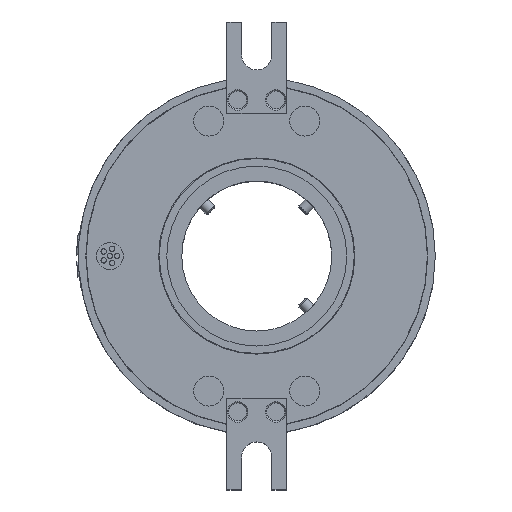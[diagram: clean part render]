
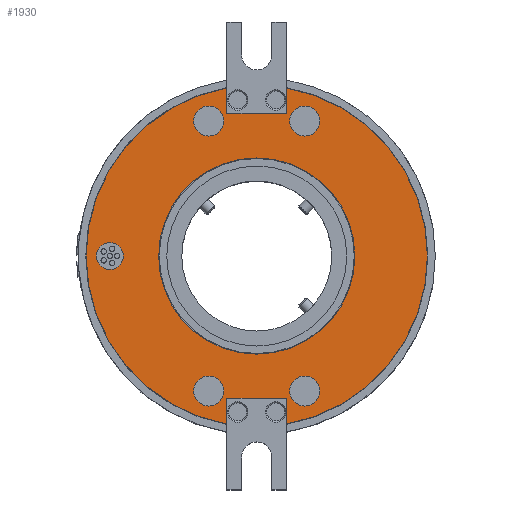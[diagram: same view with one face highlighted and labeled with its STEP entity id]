
A CAD part, top view. The second image highlights one B-rep face of the part: STEP entity #1930.
In plain terms, the highlighted planar face has unit normal (0, 0, 1).
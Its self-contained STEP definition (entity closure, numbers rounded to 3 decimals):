
#222=FACE_BOUND('',#4862,.T.);
#223=FACE_BOUND('',#4863,.T.);
#224=FACE_BOUND('',#4864,.T.);
#225=FACE_BOUND('',#4865,.T.);
#226=FACE_BOUND('',#4866,.T.);
#227=FACE_BOUND('',#4867,.T.);
#228=FACE_BOUND('',#4868,.T.);
#536=CIRCLE('',#16483,56.9);
#537=CIRCLE('',#16484,56.9);
#538=CIRCLE('',#16485,32.7);
#539=CIRCLE('',#16486,5.);
#540=CIRCLE('',#16487,5.);
#541=CIRCLE('',#16488,4.5);
#542=CIRCLE('',#16489,5.);
#543=CIRCLE('',#16490,5.);
#971=PLANE('',#16491);
#1223=LINE('',#31086,#3209);
#1224=LINE('',#31089,#3210);
#1225=LINE('',#31091,#3211);
#1226=LINE('',#31095,#3212);
#1227=LINE('',#31097,#3213);
#1228=LINE('',#31099,#3214);
#1930=ADVANCED_FACE('',(#222,#223,#224,#225,#226,#227,#228),#971,.T.);
#3209=VECTOR('',#18066,1.);
#3210=VECTOR('',#18067,1.);
#3211=VECTOR('',#18068,1.);
#3212=VECTOR('',#18071,1.);
#3213=VECTOR('',#18072,1.);
#3214=VECTOR('',#18073,1.);
#4862=EDGE_LOOP('',(#8109,#8110,#8111,#8112,#8113,#8114,#8115,#8116));
#4863=EDGE_LOOP('',(#8117));
#4864=EDGE_LOOP('',(#8118));
#4865=EDGE_LOOP('',(#8119));
#4866=EDGE_LOOP('',(#8120));
#4867=EDGE_LOOP('',(#8121));
#4868=EDGE_LOOP('',(#8122));
#8109=ORIENTED_EDGE('',*,*,#13258,.F.);
#8110=ORIENTED_EDGE('',*,*,#13259,.F.);
#8111=ORIENTED_EDGE('',*,*,#13260,.F.);
#8112=ORIENTED_EDGE('',*,*,#13261,.F.);
#8113=ORIENTED_EDGE('',*,*,#13262,.F.);
#8114=ORIENTED_EDGE('',*,*,#13263,.F.);
#8115=ORIENTED_EDGE('',*,*,#13264,.F.);
#8116=ORIENTED_EDGE('',*,*,#13265,.F.);
#8117=ORIENTED_EDGE('',*,*,#13266,.F.);
#8118=ORIENTED_EDGE('',*,*,#13267,.T.);
#8119=ORIENTED_EDGE('',*,*,#13268,.T.);
#8120=ORIENTED_EDGE('',*,*,#13269,.T.);
#8121=ORIENTED_EDGE('',*,*,#13270,.T.);
#8122=ORIENTED_EDGE('',*,*,#13271,.T.);
#11116=VERTEX_POINT('',#31087);
#11117=VERTEX_POINT('',#31088);
#11118=VERTEX_POINT('',#31090);
#11119=VERTEX_POINT('',#31092);
#11120=VERTEX_POINT('',#31094);
#11121=VERTEX_POINT('',#31096);
#11122=VERTEX_POINT('',#31098);
#11123=VERTEX_POINT('',#31100);
#11124=VERTEX_POINT('',#31103);
#11125=VERTEX_POINT('',#31105);
#11126=VERTEX_POINT('',#31107);
#11127=VERTEX_POINT('',#31109);
#11128=VERTEX_POINT('',#31111);
#11129=VERTEX_POINT('',#31113);
#13258=EDGE_CURVE('',#11116,#11117,#1223,.T.);
#13259=EDGE_CURVE('',#11118,#11116,#1224,.T.);
#13260=EDGE_CURVE('',#11119,#11118,#1225,.T.);
#13261=EDGE_CURVE('',#11120,#11119,#536,.T.);
#13262=EDGE_CURVE('',#11121,#11120,#1226,.T.);
#13263=EDGE_CURVE('',#11122,#11121,#1227,.T.);
#13264=EDGE_CURVE('',#11123,#11122,#1228,.T.);
#13265=EDGE_CURVE('',#11117,#11123,#537,.T.);
#13266=EDGE_CURVE('',#11124,#11124,#538,.T.);
#13267=EDGE_CURVE('',#11125,#11125,#539,.T.);
#13268=EDGE_CURVE('',#11126,#11126,#540,.T.);
#13269=EDGE_CURVE('',#11127,#11127,#541,.T.);
#13270=EDGE_CURVE('',#11128,#11128,#542,.T.);
#13271=EDGE_CURVE('',#11129,#11129,#543,.T.);
#16483=AXIS2_PLACEMENT_3D('',#31093,#18069,#18070);
#16484=AXIS2_PLACEMENT_3D('',#31101,#18074,#18075);
#16485=AXIS2_PLACEMENT_3D('',#31102,#18076,#18077);
#16486=AXIS2_PLACEMENT_3D('',#31104,#18078,#18079);
#16487=AXIS2_PLACEMENT_3D('',#31106,#18080,#18081);
#16488=AXIS2_PLACEMENT_3D('',#31108,#18082,#18083);
#16489=AXIS2_PLACEMENT_3D('',#31110,#18084,#18085);
#16490=AXIS2_PLACEMENT_3D('',#31112,#18086,#18087);
#16491=AXIS2_PLACEMENT_3D('',#31114,#18088,#18089);
#18066=DIRECTION('',(0.,-1.,0.));
#18067=DIRECTION('',(-1.,0.,0.));
#18068=DIRECTION('',(0.,1.,0.));
#18069=DIRECTION('',(0.,0.,-1.));
#18070=DIRECTION('',(1.,0.,0.));
#18071=DIRECTION('',(0.,1.,0.));
#18072=DIRECTION('',(1.,0.,0.));
#18073=DIRECTION('',(0.,-1.,0.));
#18074=DIRECTION('',(0.,0.,-1.));
#18075=DIRECTION('',(1.,0.,0.));
#18076=DIRECTION('',(0.,0.,1.));
#18077=DIRECTION('',(1.,0.,0.));
#18078=DIRECTION('',(0.,0.,-1.));
#18079=DIRECTION('',(1.,0.,0.));
#18080=DIRECTION('',(0.,0.,-1.));
#18081=DIRECTION('',(1.,0.,0.));
#18082=DIRECTION('',(0.,0.,-1.));
#18083=DIRECTION('',(1.,0.,0.));
#18084=DIRECTION('',(0.,0.,-1.));
#18085=DIRECTION('',(-1.,0.,0.));
#18086=DIRECTION('',(0.,0.,-1.));
#18087=DIRECTION('',(-1.,0.,0.));
#18088=DIRECTION('',(0.,0.,1.));
#18089=DIRECTION('',(1.,0.,0.));
#31086=CARTESIAN_POINT('',(-10.,-62.75,63.5));
#31087=CARTESIAN_POINT('',(-10.,-47.5,63.5));
#31088=CARTESIAN_POINT('',(-10.,-56.014,63.5));
#31089=CARTESIAN_POINT('',(0.,-47.5,63.5));
#31090=CARTESIAN_POINT('',(10.,-47.5,63.5));
#31091=CARTESIAN_POINT('',(10.,-62.75,63.5));
#31092=CARTESIAN_POINT('',(10.,-56.014,63.5));
#31093=CARTESIAN_POINT('',(0.,0.,63.5));
#31094=CARTESIAN_POINT('',(10.,56.014,63.5));
#31095=CARTESIAN_POINT('',(10.,62.75,63.5));
#31096=CARTESIAN_POINT('',(10.,47.5,63.5));
#31097=CARTESIAN_POINT('',(0.,47.5,63.5));
#31098=CARTESIAN_POINT('',(-10.,47.5,63.5));
#31099=CARTESIAN_POINT('',(-10.,62.75,63.5));
#31100=CARTESIAN_POINT('',(-10.,56.014,63.5));
#31101=CARTESIAN_POINT('',(0.,0.,63.5));
#31102=CARTESIAN_POINT('',(0.,0.,63.5));
#31103=CARTESIAN_POINT('',(32.7,0.,63.5));
#31104=CARTESIAN_POINT('',(16.,-45.,63.5));
#31105=CARTESIAN_POINT('',(21.,-45.,63.5));
#31106=CARTESIAN_POINT('',(-16.,-45.,63.5));
#31107=CARTESIAN_POINT('',(-11.,-45.,63.5));
#31108=CARTESIAN_POINT('',(-49.,0.,63.5));
#31109=CARTESIAN_POINT('',(-44.5,0.,63.5));
#31110=CARTESIAN_POINT('',(16.,45.,63.5));
#31111=CARTESIAN_POINT('',(11.,45.,63.5));
#31112=CARTESIAN_POINT('',(-16.,45.,63.5));
#31113=CARTESIAN_POINT('',(-21.,45.,63.5));
#31114=CARTESIAN_POINT('',(0.,0.,63.5));
